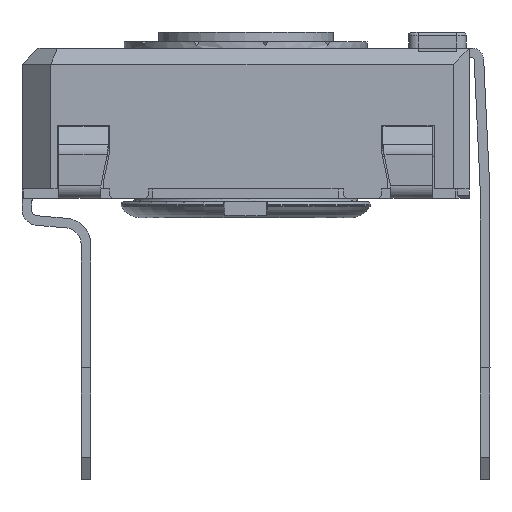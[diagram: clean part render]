
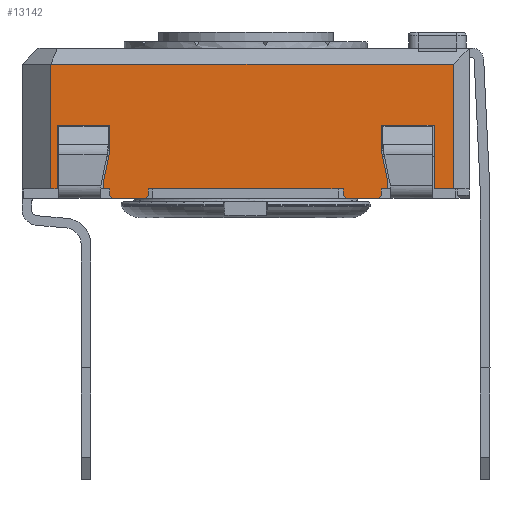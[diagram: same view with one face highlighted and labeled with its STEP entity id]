
A CAD part, left-side view. The second image highlights one B-rep face of the part: STEP entity #13142.
In plain terms, the highlighted planar face has unit normal (-1, 0, 0).
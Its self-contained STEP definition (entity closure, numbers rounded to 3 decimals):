
#453=PLANE('',#14028);
#1060=FACE_OUTER_BOUND('',#1746,.T.);
#1746=EDGE_LOOP('',(#10847,#10848,#10849,#10850,#10851,#10852,#10853,#10854,
#10855,#10856,#10857,#10858,#10859,#10860,#10861,#10862,#10863,#10864,#10865,
#10866,#10867,#10868,#10869,#10870,#10871,#10872,#10873,#10874));
#2746=LINE('',#20106,#4257);
#2752=LINE('',#20118,#4263);
#2755=LINE('',#20125,#4266);
#2760=LINE('',#20134,#4271);
#2780=LINE('',#20175,#4291);
#2794=LINE('',#20201,#4305);
#2798=LINE('',#20208,#4309);
#2813=LINE('',#20237,#4324);
#2816=LINE('',#20243,#4327);
#2821=LINE('',#20253,#4332);
#2824=LINE('',#20259,#4335);
#2827=LINE('',#20265,#4338);
#2845=LINE('',#20300,#4356);
#2857=LINE('',#20322,#4368);
#2860=LINE('',#20328,#4371);
#2897=LINE('',#20462,#4408);
#2900=LINE('',#20468,#4411);
#2926=LINE('',#20515,#4437);
#2931=LINE('',#20525,#4442);
#2933=LINE('',#20528,#4444);
#3058=LINE('',#20839,#4569);
#3060=LINE('',#20844,#4571);
#3063=LINE('',#20848,#4574);
#3065=LINE('',#20852,#4576);
#3068=LINE('',#20860,#4579);
#3069=LINE('',#20862,#4580);
#3070=LINE('',#20863,#4581);
#3071=LINE('',#20864,#4582);
#4257=VECTOR('',#16098,10.);
#4263=VECTOR('',#16106,10.);
#4266=VECTOR('',#16111,10.);
#4271=VECTOR('',#16118,10.);
#4291=VECTOR('',#16152,10.);
#4305=VECTOR('',#16166,10.);
#4309=VECTOR('',#16170,10.);
#4324=VECTOR('',#16197,10.);
#4327=VECTOR('',#16202,10.);
#4332=VECTOR('',#16209,10.);
#4335=VECTOR('',#16214,10.);
#4338=VECTOR('',#16219,10.);
#4356=VECTOR('',#16239,10.);
#4368=VECTOR('',#16253,10.);
#4371=VECTOR('',#16258,10.);
#4408=VECTOR('',#16339,10.);
#4411=VECTOR('',#16344,10.);
#4437=VECTOR('',#16372,10.);
#4442=VECTOR('',#16379,10.);
#4444=VECTOR('',#16383,10.);
#4569=VECTOR('',#16674,10.);
#4571=VECTOR('',#16678,10.);
#4574=VECTOR('',#16683,10.);
#4576=VECTOR('',#16689,10.);
#4579=VECTOR('',#16700,10.);
#4580=VECTOR('',#16701,10.);
#4581=VECTOR('',#16702,10.);
#4582=VECTOR('',#16703,10.);
#5999=VERTEX_POINT('',#20103);
#6000=VERTEX_POINT('',#20105);
#6004=VERTEX_POINT('',#20115);
#6006=VERTEX_POINT('',#20121);
#6008=VERTEX_POINT('',#20124);
#6011=VERTEX_POINT('',#20132);
#6036=VERTEX_POINT('',#20198);
#6037=VERTEX_POINT('',#20200);
#6039=VERTEX_POINT('',#20205);
#6040=VERTEX_POINT('',#20207);
#6047=VERTEX_POINT('',#20234);
#6049=VERTEX_POINT('',#20240);
#6053=VERTEX_POINT('',#20250);
#6055=VERTEX_POINT('',#20256);
#6058=VERTEX_POINT('',#20263);
#6074=VERTEX_POINT('',#20298);
#6083=VERTEX_POINT('',#20320);
#6085=VERTEX_POINT('',#20326);
#6112=VERTEX_POINT('',#20460);
#6113=VERTEX_POINT('',#20465);
#6133=VERTEX_POINT('',#20512);
#6137=VERTEX_POINT('',#20522);
#6211=VERTEX_POINT('',#20836);
#6212=VERTEX_POINT('',#20838);
#6213=VERTEX_POINT('',#20842);
#6214=VERTEX_POINT('',#20843);
#6215=VERTEX_POINT('',#20859);
#6216=VERTEX_POINT('',#20861);
#7528=EDGE_CURVE('',#6000,#5999,#2746,.T.);
#7534=EDGE_CURVE('',#5999,#6004,#2752,.T.);
#7537=EDGE_CURVE('',#6008,#6006,#2755,.T.);
#7542=EDGE_CURVE('',#6011,#6006,#2760,.T.);
#7562=EDGE_CURVE('',#6004,#6008,#2780,.T.);
#7576=EDGE_CURVE('',#6037,#6036,#2794,.T.);
#7580=EDGE_CURVE('',#6040,#6039,#2798,.T.);
#7596=EDGE_CURVE('',#6036,#6047,#2813,.T.);
#7599=EDGE_CURVE('',#6047,#6049,#2816,.T.);
#7604=EDGE_CURVE('',#6049,#6053,#2821,.T.);
#7607=EDGE_CURVE('',#6053,#6055,#2824,.T.);
#7610=EDGE_CURVE('',#6055,#6058,#2827,.T.);
#7628=EDGE_CURVE('',#6058,#6074,#2845,.T.);
#7640=EDGE_CURVE('',#6083,#6074,#2857,.T.);
#7643=EDGE_CURVE('',#6085,#6083,#2860,.T.);
#7692=EDGE_CURVE('',#6112,#6085,#2897,.T.);
#7695=EDGE_CURVE('',#6112,#6113,#2900,.T.);
#7721=EDGE_CURVE('',#6113,#6133,#2926,.T.);
#7726=EDGE_CURVE('',#6133,#6137,#2931,.T.);
#7728=EDGE_CURVE('',#6137,#6000,#2933,.T.);
#7869=EDGE_CURVE('',#6211,#6212,#3058,.T.);
#7871=EDGE_CURVE('',#6213,#6214,#3060,.T.);
#7874=EDGE_CURVE('',#6037,#6211,#3063,.T.);
#7876=EDGE_CURVE('',#6039,#6214,#3065,.T.);
#7879=EDGE_CURVE('',#6011,#6215,#3068,.T.);
#7880=EDGE_CURVE('',#6216,#6215,#3069,.T.);
#7881=EDGE_CURVE('',#6040,#6216,#3070,.T.);
#7882=EDGE_CURVE('',#6213,#6212,#3071,.T.);
#10847=ORIENTED_EDGE('',*,*,#7534,.T.);
#10848=ORIENTED_EDGE('',*,*,#7562,.T.);
#10849=ORIENTED_EDGE('',*,*,#7537,.T.);
#10850=ORIENTED_EDGE('',*,*,#7542,.F.);
#10851=ORIENTED_EDGE('',*,*,#7879,.T.);
#10852=ORIENTED_EDGE('',*,*,#7880,.F.);
#10853=ORIENTED_EDGE('',*,*,#7881,.F.);
#10854=ORIENTED_EDGE('',*,*,#7580,.T.);
#10855=ORIENTED_EDGE('',*,*,#7876,.T.);
#10856=ORIENTED_EDGE('',*,*,#7871,.F.);
#10857=ORIENTED_EDGE('',*,*,#7882,.T.);
#10858=ORIENTED_EDGE('',*,*,#7869,.F.);
#10859=ORIENTED_EDGE('',*,*,#7874,.F.);
#10860=ORIENTED_EDGE('',*,*,#7576,.T.);
#10861=ORIENTED_EDGE('',*,*,#7596,.T.);
#10862=ORIENTED_EDGE('',*,*,#7599,.T.);
#10863=ORIENTED_EDGE('',*,*,#7604,.T.);
#10864=ORIENTED_EDGE('',*,*,#7607,.T.);
#10865=ORIENTED_EDGE('',*,*,#7610,.T.);
#10866=ORIENTED_EDGE('',*,*,#7628,.T.);
#10867=ORIENTED_EDGE('',*,*,#7640,.F.);
#10868=ORIENTED_EDGE('',*,*,#7643,.F.);
#10869=ORIENTED_EDGE('',*,*,#7692,.F.);
#10870=ORIENTED_EDGE('',*,*,#7695,.T.);
#10871=ORIENTED_EDGE('',*,*,#7721,.T.);
#10872=ORIENTED_EDGE('',*,*,#7726,.T.);
#10873=ORIENTED_EDGE('',*,*,#7728,.T.);
#10874=ORIENTED_EDGE('',*,*,#7528,.T.);
#13142=ADVANCED_FACE('',(#1060),#453,.T.);
#14028=AXIS2_PLACEMENT_3D('',#20858,#16698,#16699);
#16098=DIRECTION('',(0.,0.208,-0.978));
#16106=DIRECTION('',(0.,0.,-1.));
#16111=DIRECTION('',(0.,0.,-1.));
#16118=DIRECTION('',(0.,0.707,0.707));
#16152=DIRECTION('',(0.,-1.,0.));
#16166=DIRECTION('',(0.,-1.,0.));
#16170=DIRECTION('',(0.,-1.,0.));
#16197=DIRECTION('',(0.,0.,1.));
#16202=DIRECTION('',(0.,0.208,0.978));
#16209=DIRECTION('',(0.,0.,1.));
#16214=DIRECTION('',(0.,-1.,0.));
#16219=DIRECTION('',(0.,0.,-1.));
#16239=DIRECTION('',(0.,-1.,0.));
#16253=DIRECTION('',(0.,0.,-1.));
#16258=DIRECTION('',(0.,-1.,0.));
#16339=DIRECTION('',(0.,0.,1.));
#16344=DIRECTION('',(0.,-1.,0.));
#16372=DIRECTION('',(0.,0.,1.));
#16379=DIRECTION('',(0.,-1.,0.));
#16383=DIRECTION('',(0.,0.,-1.));
#16674=DIRECTION('',(0.,0.707,-0.707));
#16678=DIRECTION('',(0.,0.707,0.707));
#16683=DIRECTION('',(0.,0.,-1.));
#16689=DIRECTION('',(0.,0.,-1.));
#16698=DIRECTION('center_axis',(-1.,0.,0.));
#16699=DIRECTION('ref_axis',(0.,0.,1.));
#16700=DIRECTION('',(0.,-1.,0.));
#16701=DIRECTION('',(0.,0.707,-0.707));
#16702=DIRECTION('',(0.,0.,-1.));
#16703=DIRECTION('',(0.,-1.,0.));
#20103=CARTESIAN_POINT('',(-14.467,1.552,0.235));
#20105=CARTESIAN_POINT('',(-14.467,1.352,1.176));
#20106=CARTESIAN_POINT('',(-14.467,1.228,1.757));
#20115=CARTESIAN_POINT('',(-14.467,1.552,0.));
#20118=CARTESIAN_POINT('',(-14.467,1.552,0.));
#20121=CARTESIAN_POINT('',(-14.467,1.352,-0.2));
#20124=CARTESIAN_POINT('',(-14.467,1.352,0.));
#20125=CARTESIAN_POINT('',(-14.467,1.352,0.));
#20132=CARTESIAN_POINT('',(-14.467,1.252,-0.3));
#20134=CARTESIAN_POINT('',(-14.467,-1.436,-2.988));
#20175=CARTESIAN_POINT('',(-14.467,4.102,0.));
#20198=CARTESIAN_POINT('',(-14.467,-7.348,0.));
#20200=CARTESIAN_POINT('',(-14.467,-7.148,0.));
#20201=CARTESIAN_POINT('',(-14.467,4.102,0.));
#20205=CARTESIAN_POINT('',(-14.467,-5.948,0.));
#20207=CARTESIAN_POINT('',(-14.467,0.152,0.));
#20208=CARTESIAN_POINT('',(-14.467,4.102,0.));
#20234=CARTESIAN_POINT('',(-14.467,-7.348,0.235));
#20237=CARTESIAN_POINT('',(-14.467,-7.348,0.118));
#20240=CARTESIAN_POINT('',(-14.467,-7.148,1.176));
#20243=CARTESIAN_POINT('',(-14.467,-7.453,-0.254));
#20250=CARTESIAN_POINT('',(-14.467,-7.148,2.));
#20253=CARTESIAN_POINT('',(-14.467,-7.148,0.588));
#20256=CARTESIAN_POINT('',(-14.467,-8.798,2.));
#20259=CARTESIAN_POINT('',(-14.467,-8.523,2.));
#20263=CARTESIAN_POINT('',(-14.467,-8.798,0.));
#20265=CARTESIAN_POINT('',(-14.467,-8.798,0.));
#20298=CARTESIAN_POINT('',(-14.467,-9.398,0.));
#20300=CARTESIAN_POINT('',(-14.467,-9.595,0.));
#20320=CARTESIAN_POINT('',(-14.467,-9.398,3.9));
#20322=CARTESIAN_POINT('',(-14.467,-9.398,0.));
#20326=CARTESIAN_POINT('',(-14.467,3.202,3.9));
#20328=CARTESIAN_POINT('',(-14.467,-6.398,3.9));
#20460=CARTESIAN_POINT('',(-14.467,3.202,0.));
#20462=CARTESIAN_POINT('',(-14.467,3.202,0.));
#20465=CARTESIAN_POINT('',(-14.467,3.002,0.));
#20468=CARTESIAN_POINT('',(-14.467,-2.985,0.));
#20512=CARTESIAN_POINT('',(-14.467,3.002,2.));
#20515=CARTESIAN_POINT('',(-14.467,3.002,0.));
#20522=CARTESIAN_POINT('',(-14.467,1.352,2.));
#20525=CARTESIAN_POINT('',(-14.467,-3.448,2.));
#20528=CARTESIAN_POINT('',(-14.467,1.352,1.));
#20836=CARTESIAN_POINT('',(-14.467,-7.148,-0.2));
#20838=CARTESIAN_POINT('',(-14.467,-7.048,-0.3));
#20839=CARTESIAN_POINT('',(-14.467,-7.861,0.513));
#20842=CARTESIAN_POINT('',(-14.467,-6.048,-0.3));
#20843=CARTESIAN_POINT('',(-14.467,-5.948,-0.2));
#20844=CARTESIAN_POINT('',(-14.467,-6.911,-1.163));
#20848=CARTESIAN_POINT('',(-14.467,-7.148,0.));
#20852=CARTESIAN_POINT('',(-14.467,-5.948,0.));
#20858=CARTESIAN_POINT('Origin',(-14.467,-9.898,0.));
#20859=CARTESIAN_POINT('',(-14.467,0.252,-0.3));
#20860=CARTESIAN_POINT('',(-14.467,0.152,-0.3));
#20861=CARTESIAN_POINT('',(-14.467,0.152,-0.2));
#20862=CARTESIAN_POINT('',(-14.467,-2.386,2.338));
#20863=CARTESIAN_POINT('',(-14.467,0.152,0.));
#20864=CARTESIAN_POINT('',(-14.467,-7.148,-0.3));
